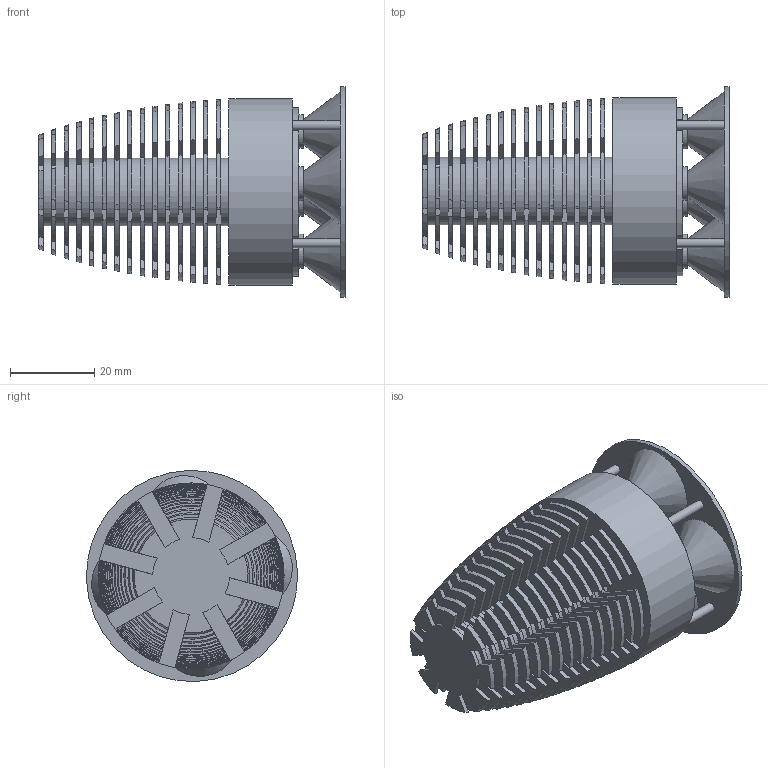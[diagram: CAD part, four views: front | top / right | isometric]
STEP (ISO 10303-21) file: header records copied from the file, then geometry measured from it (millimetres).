
FILE_DESCRIPTION(/* description */ (''),/* implementation_level */ '2;1');
FILE_NAME(/* name */ 'C:/Users/elena/Desktop/LF-04.step',/* time_stamp */ '2020-06-24T12:47:01+02:00',/* author */ (''),/* organization */ (''),/* preprocessor_version */ 'ST-DEVELOPER v18.1',/* originating_system */ 'Autodesk Translation Framework v9.3.0.1241',/* authorisation */ '');
FILE_SCHEMA (('AUTOMOTIVE_DESIGN { 1 0 10303 214 3 1 1 }'));
Length unit declared in the file: millimetre
Products named in the file (2): (Unsaved); LF-04 3D
Assembly tree (1 placements, depth 2):
  (Unsaved)
    LF-04 3D
Bounding box: 72.49 x 49.96 x 49.96 mm (x, y, z)
Volume: 50110.8 mm3; surface area: 37595.9 mm2
Topology: 7 solids, 7 shells, 597 faces, 1703 edges, 1129 vertices
Faces by surface type: plane 292, cylinder 163, bspline 126, cone 12, sphere 4
Full cylindrical faces by diameter (mm): 2.15 x4, 4 x2, 6.05 x4, 8 x4, 8.988 x4, 16 x15, 44.091 x1, 50 x1
Entity records: 22964 total; most frequent: CARTESIAN_POINT 7130, ORIENTED_EDGE 3400, DIRECTION 3399, EDGE_CURVE 1700, AXIS2_PLACEMENT_3D 1301, VERTEX_POINT 1130, CIRCLE 827, LINE 797
